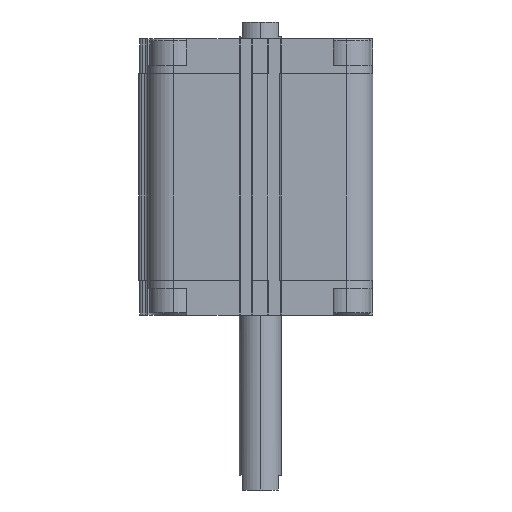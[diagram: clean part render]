
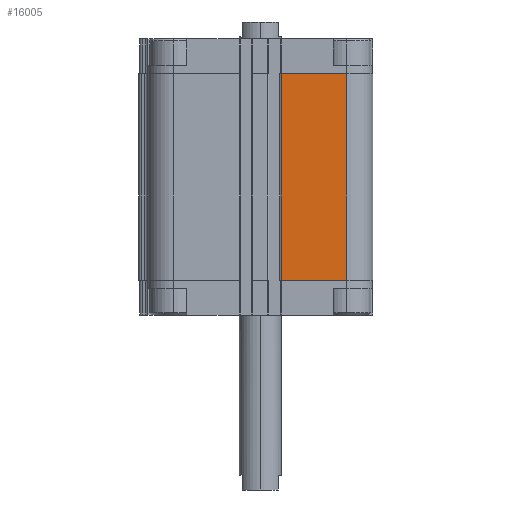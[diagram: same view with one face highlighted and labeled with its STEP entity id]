
A CAD part, left-side view. The second image highlights one B-rep face of the part: STEP entity #16005.
In plain terms, the highlighted planar face has unit normal (-1, 0, 0).
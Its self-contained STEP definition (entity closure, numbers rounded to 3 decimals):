
#566 = VECTOR ( 'NONE', #5362, 1000. ) ;
#888 = EDGE_CURVE ( 'NONE', #2213, #4300, #15687, .T. ) ;
#1550 = VERTEX_POINT ( 'NONE', #18740 ) ;
#2213 = VERTEX_POINT ( 'NONE', #19870 ) ;
#3136 = FACE_OUTER_BOUND ( 'NONE', #15454, .T. ) ;
#3541 = VECTOR ( 'NONE', #17860, 1000. ) ;
#4300 = VERTEX_POINT ( 'NONE', #9114 ) ;
#4533 = PLANE ( 'NONE',  #12123 ) ;
#4740 = LINE ( 'NONE', #16256, #3541 ) ;
#5362 = DIRECTION ( 'NONE',  ( 0., -1., 0. ) ) ;
#7459 = DIRECTION ( 'NONE',  ( 0., 0., 1. ) ) ;
#7677 = CARTESIAN_POINT ( 'NONE',  ( -53.5, -9.95, -114.5 ) ) ;
#7700 = VECTOR ( 'NONE', #13219, 1000. ) ;
#8392 = CARTESIAN_POINT ( 'NONE',  ( -53.5, -41., -114.5 ) ) ;
#9017 = EDGE_CURVE ( 'NONE', #11676, #1550, #4740, .T. ) ;
#9114 = CARTESIAN_POINT ( 'NONE',  ( -53.5, -41., -16.5 ) ) ;
#10665 = CARTESIAN_POINT ( 'NONE',  ( -53.5, -9.95, -114.5 ) ) ;
#11014 = LINE ( 'NONE', #7677, #20572 ) ;
#11322 = DIRECTION ( 'NONE',  ( 0., -1., 0. ) ) ;
#11676 = VERTEX_POINT ( 'NONE', #10665 ) ;
#12123 = AXIS2_PLACEMENT_3D ( 'NONE', #14218, #19159, #11322 ) ;
#13219 = DIRECTION ( 'NONE',  ( 0., 0., 1. ) ) ;
#13452 = ORIENTED_EDGE ( 'NONE', *, *, #21067, .F. ) ;
#14218 = CARTESIAN_POINT ( 'NONE',  ( -53.5, -9.95, -114.5 ) ) ;
#15454 = EDGE_LOOP ( 'NONE', ( #18673, #13452, #18506, #17142 ) ) ;
#15577 = CARTESIAN_POINT ( 'NONE',  ( -53.5, -9.95, -16.5 ) ) ;
#15687 = LINE ( 'NONE', #15577, #566 ) ;
#16005 = ADVANCED_FACE ( 'NONE', ( #3136 ), #4533, .T. ) ;
#16256 = CARTESIAN_POINT ( 'NONE',  ( -53.5, -9.95, -114.5 ) ) ;
#16535 = EDGE_CURVE ( 'NONE', #1550, #4300, #18539, .T. ) ;
#17142 = ORIENTED_EDGE ( 'NONE', *, *, #16535, .T. ) ;
#17860 = DIRECTION ( 'NONE',  ( 0., -1., 0. ) ) ;
#18506 = ORIENTED_EDGE ( 'NONE', *, *, #9017, .T. ) ;
#18539 = LINE ( 'NONE', #8392, #7700 ) ;
#18673 = ORIENTED_EDGE ( 'NONE', *, *, #888, .F. ) ;
#18740 = CARTESIAN_POINT ( 'NONE',  ( -53.5, -41., -114.5 ) ) ;
#19159 = DIRECTION ( 'NONE',  ( -1., 0., 0. ) ) ;
#19870 = CARTESIAN_POINT ( 'NONE',  ( -53.5, -9.95, -16.5 ) ) ;
#20572 = VECTOR ( 'NONE', #7459, 1000. ) ;
#21067 = EDGE_CURVE ( 'NONE', #11676, #2213, #11014, .T. ) ;
